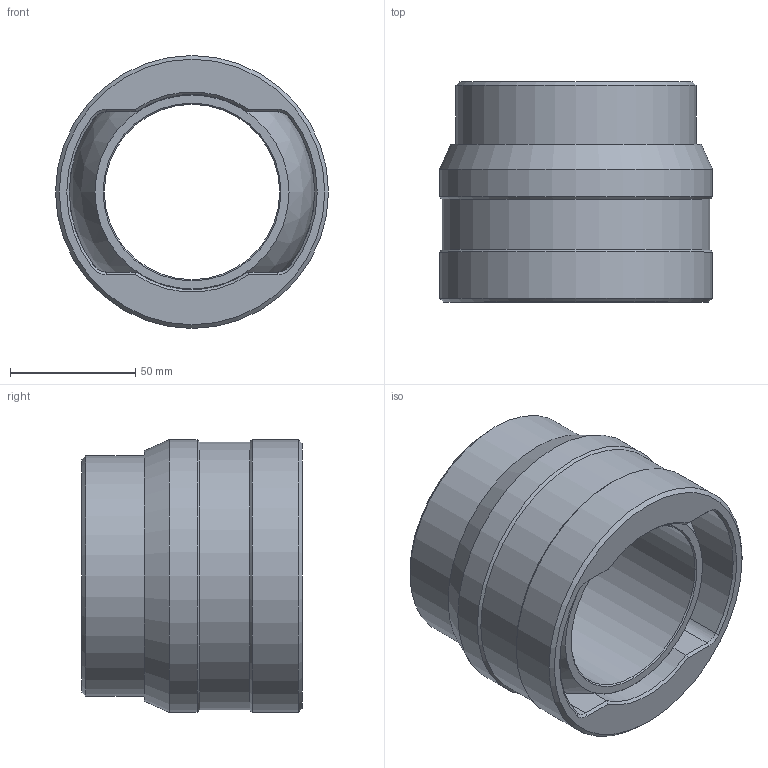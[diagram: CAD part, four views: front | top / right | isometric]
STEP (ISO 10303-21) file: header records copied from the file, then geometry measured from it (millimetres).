
FILE_DESCRIPTION(('STEP AP214'),'1');
FILE_NAME('C:/Projets/Serie 10.xx.xx/10.11.07.step','2011-11-10T15:36:25',(' '),(' '),'Spatial InterOp 3D',' ',' ');
FILE_SCHEMA(('automotive_design'));
Length unit declared in the file: metre
Products named in the file (3): boitier 07; rotule 07; 1
Bounding box: 109 x 88 x 109 mm (x, y, z)
Volume: 359592 mm3; surface area: 93968.9 mm2
Topology: 2 solids, 2 shells, 47 faces, 777 edges, 1412 vertices
Faces by surface type: cone 16, cylinder 15, plane 14, sphere 2
Full cylindrical faces by diameter (mm): 70 x1, 78 x1, 80 x1, 96 x1, 107 x1, 109 x2
Entity records: 9783 total; most frequent: CARTESIAN_POINT 935, DIRECTION 908, STYLED_ITEM 724, PRESENTATION_STYLE_ASSIGNMENT 724, COLOUR_RGB 724, LINE 694, VECTOR 694, TRIMMED_CURVE 677
